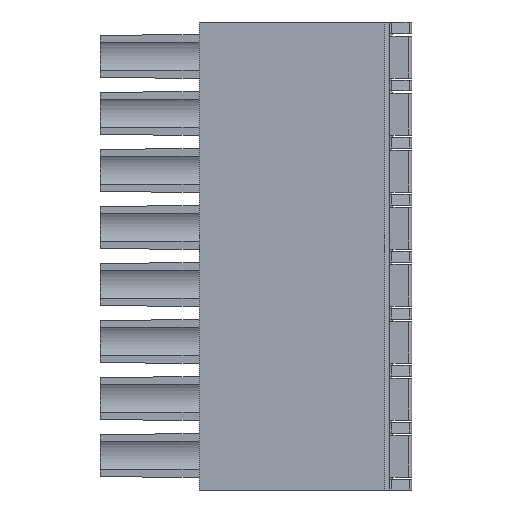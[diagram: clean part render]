
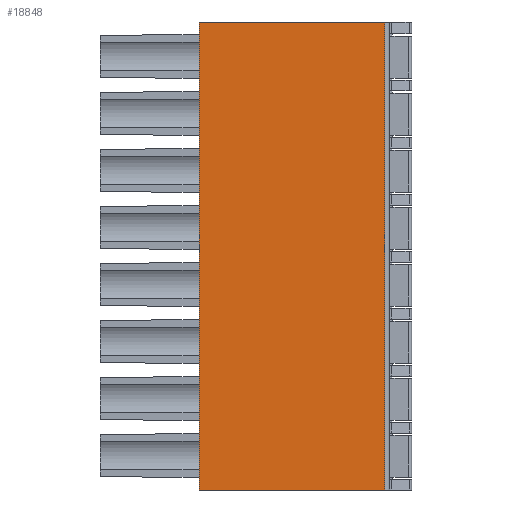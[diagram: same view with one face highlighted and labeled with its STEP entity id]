
A CAD part, front view. The second image highlights one B-rep face of the part: STEP entity #18848.
In plain terms, the highlighted planar face has unit normal (0, -1, 0).
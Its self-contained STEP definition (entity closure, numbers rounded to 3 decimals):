
#65=DIRECTION('',(-1.,0.,0.));
#66=VECTOR('',#65,12.4);
#67=CARTESIAN_POINT('',(-30.459,40.614,2.3));
#68=LINE('',#67,#66);
#1624=DIRECTION('',(0.,0.,-1.));
#1625=VECTOR('',#1624,31.27);
#1626=CARTESIAN_POINT('',(-42.859,40.614,2.3));
#1627=LINE('',#1626,#1625);
#2039=DIRECTION('',(-1.,0.,0.));
#2040=VECTOR('',#2039,12.4);
#2041=CARTESIAN_POINT('',(-30.459,40.614,-28.97));
#2042=LINE('',#2041,#2040);
#2053=DIRECTION('',(0.,0.,1.));
#2054=VECTOR('',#2053,31.27);
#2055=CARTESIAN_POINT('',(-30.459,40.614,-28.97));
#2056=LINE('',#2055,#2054);
#14799=CARTESIAN_POINT('',(-30.459,40.614,2.3));
#14800=VERTEX_POINT('',#14799);
#14801=CARTESIAN_POINT('',(-42.859,40.614,2.3));
#14802=VERTEX_POINT('',#14801);
#15306=CARTESIAN_POINT('',(-42.859,40.614,-28.97));
#15307=VERTEX_POINT('',#15306);
#15482=CARTESIAN_POINT('',(-30.459,40.614,-28.97));
#15483=VERTEX_POINT('',#15482);
#18835=CARTESIAN_POINT('',(-42.859,40.614,0.));
#18836=DIRECTION('',(0.,-1.,0.));
#18837=DIRECTION('',(-1.,0.,0.));
#18838=AXIS2_PLACEMENT_3D('',#18835,#18836,#18837);
#18839=PLANE('',#18838);
#18841=ORIENTED_EDGE('',*,*,#18840,.F.);
#18843=ORIENTED_EDGE('',*,*,#18842,.T.);
#18844=ORIENTED_EDGE('',*,*,#18630,.F.);
#18845=ORIENTED_EDGE('',*,*,#17303,.F.);
#18846=EDGE_LOOP('',(#18841,#18843,#18844,#18845));
#18847=FACE_OUTER_BOUND('',#18846,.F.);
#17303=EDGE_CURVE('',#14800,#14802,#68,.T.);
#18630=EDGE_CURVE('',#14802,#15307,#1627,.T.);
#18840=EDGE_CURVE('',#15483,#14800,#2056,.T.);
#18842=EDGE_CURVE('',#15483,#15307,#2042,.T.);
#18848=ADVANCED_FACE('',(#18847),#18839,.T.);
